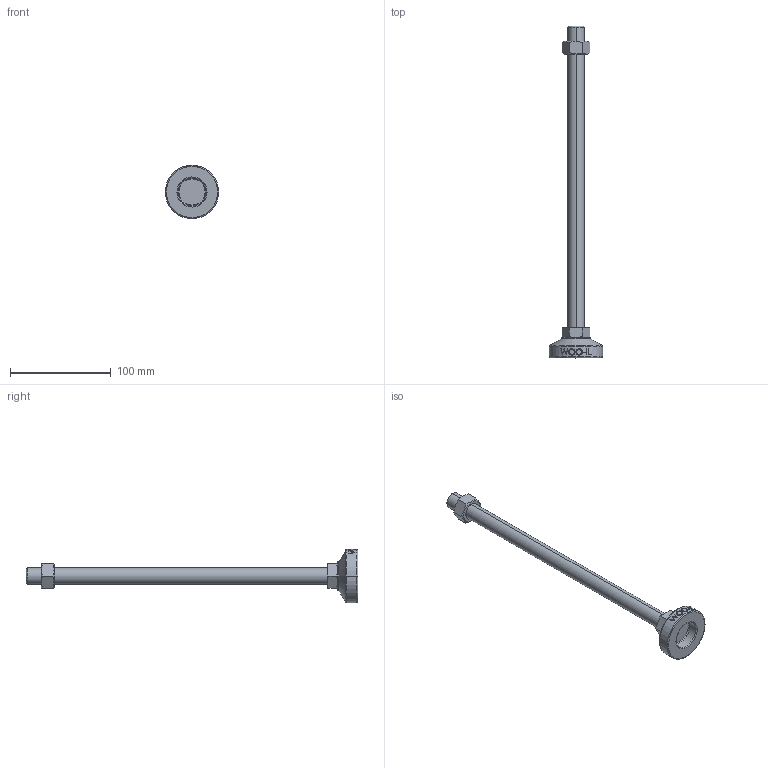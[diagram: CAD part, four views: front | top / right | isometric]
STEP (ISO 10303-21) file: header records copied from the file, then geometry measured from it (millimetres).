
FILE_DESCRIPTION (( 'STEP AP214' ), '1' );
FILE_NAME ('MFZ53-M16-300.step', '2021-01-15T07:04:57', ( '' ), ( '' ), 'SwSTEP 2.0', 'SolidWorks 2019', '' );
FILE_SCHEMA (( 'AUTOMOTIVE_DESIGN' ));
Length unit declared in the file: millimetre
Products named in the file (2): MFZ53-M16-300
Bounding box: 53 x 330 x 53 mm (x, y, z)
Volume: 99094.1 mm3; surface area: 26567.5 mm2
Topology: 3 solids, 3 shells, 106 faces, 243 edges, 154 vertices
Faces by surface type: plane 48, cylinder 18, bspline 16, cone 14, torus 10
Entity records: 4508 total; most frequent: CARTESIAN_POINT 2165, ORIENTED_EDGE 486, DIRECTION 439, EDGE_CURVE 243, AXIS2_PLACEMENT_3D 170, VERTEX_POINT 154, EDGE_LOOP 119, ADVANCED_FACE 106
